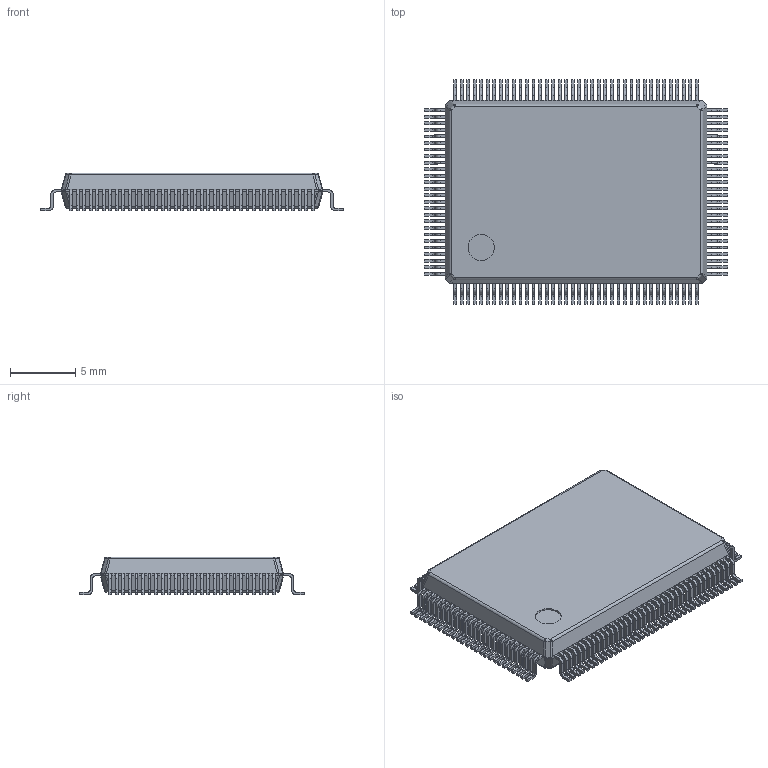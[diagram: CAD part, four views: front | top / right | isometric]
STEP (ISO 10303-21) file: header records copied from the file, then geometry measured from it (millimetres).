
FILE_DESCRIPTION (( 'STEP AP214' ), '1' );
FILE_NAME ('User Library-QFP5-128.STEP', '2019-06-10T15:35:20', ( '' ), ( '' ), 'SwSTEP 2.0', 'SolidWorks 2019', '' );
FILE_SCHEMA (( 'AUTOMOTIVE_DESIGN' ));
Length unit declared in the file: millimetre
Products named in the file (1): User Library-QFP5-128
Bounding box: 23.2 x 17.2 x 2.9 mm (x, y, z)
Volume: 742 mm3; surface area: 996.9 mm2
Topology: 39 solids, 39 shells, 1877 faces, 4986 edges, 3188 vertices
Faces by surface type: plane 1307, cylinder 554, sphere 16
Entity records: 59833 total; most frequent: CARTESIAN_POINT 10196, ORIENTED_EDGE 9972, DIRECTION 9770, EDGE_CURVE 4986, LINE 3862, VECTOR 3862, VERTEX_POINT 3188, AXIS2_PLACEMENT_3D 2954
